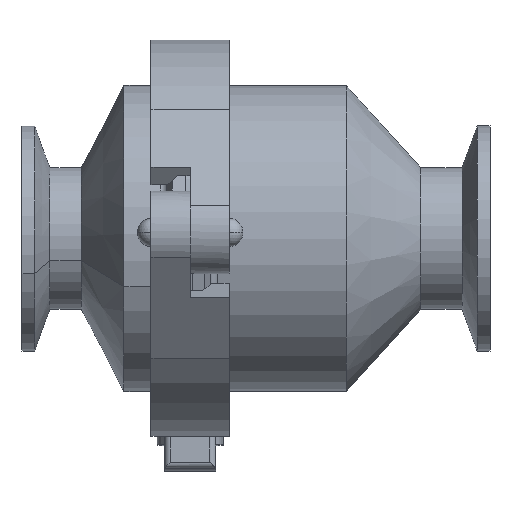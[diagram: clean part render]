
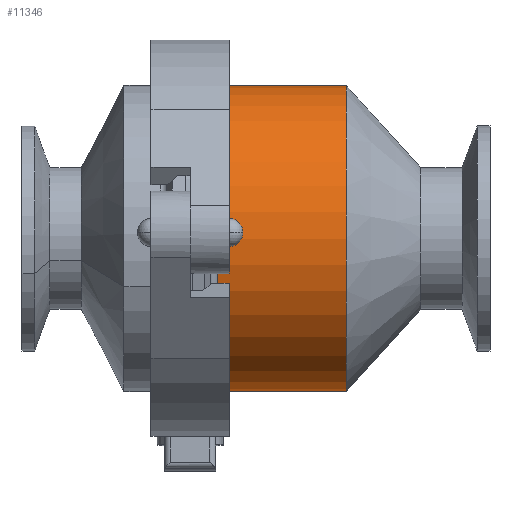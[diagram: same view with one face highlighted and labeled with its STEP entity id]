
A CAD part, left-side view. The second image highlights one B-rep face of the part: STEP entity #11346.
In plain terms, the highlighted cylindrical face has radius 34.29 mm (diameter 68.58 mm), a partial arc.
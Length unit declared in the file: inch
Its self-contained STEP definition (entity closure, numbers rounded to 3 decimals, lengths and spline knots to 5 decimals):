
#519 = FACE_OUTER_BOUND ( 'NONE', #12189, .T. ) ;
#760 = VERTEX_POINT ( 'NONE', #4383 ) ;
#1031 = LINE ( 'NONE', #3205, #8272 ) ;
#1625 = DIRECTION ( 'NONE',  ( 0., -1., 0. ) ) ;
#1965 = CARTESIAN_POINT ( 'NONE',  ( 1.07219, 2.19127, 1.35115 ) ) ;
#2514 = VERTEX_POINT ( 'NONE', #5116 ) ;
#2563 = VECTOR ( 'NONE', #9731, 39.37008 ) ;
#3205 = CARTESIAN_POINT ( 'NONE',  ( 1.07219, 2.42849, 4.05115 ) ) ;
#4383 = CARTESIAN_POINT ( 'NONE',  ( 1.07219, 1.05349, 1.35115 ) ) ;
#4428 = EDGE_CURVE ( 'NONE', #10706, #2514, #1031, .T. ) ;
#4629 = EDGE_CURVE ( 'NONE', #2514, #760, #9333, .T. ) ;
#4815 = EDGE_CURVE ( 'NONE', #4896, #760, #7796, .T. ) ;
#4896 = VERTEX_POINT ( 'NONE', #1965 ) ;
#5116 = CARTESIAN_POINT ( 'NONE',  ( 1.07219, 1.05349, 4.05115 ) ) ;
#5344 = CIRCLE ( 'NONE', #10263, 1.35 ) ;
#5458 = CYLINDRICAL_SURFACE ( 'NONE', #10715, 1.35 ) ;
#5730 = ORIENTED_EDGE ( 'NONE', *, *, #6622, .T. ) ;
#5825 = DIRECTION ( 'NONE',  ( 0., -1., 0. ) ) ;
#6622 = EDGE_CURVE ( 'NONE', #10706, #4896, #5344, .T. ) ;
#6788 = CARTESIAN_POINT ( 'NONE',  ( 1.07219, 2.42849, 1.35115 ) ) ;
#7334 = CARTESIAN_POINT ( 'NONE',  ( 1.07219, 2.42849, 2.70115 ) ) ;
#7526 = CARTESIAN_POINT ( 'NONE',  ( 1.07219, 1.05349, 2.70115 ) ) ;
#7796 = LINE ( 'NONE', #6788, #2563 ) ;
#8232 = DIRECTION ( 'NONE',  ( 0., 0., -1. ) ) ;
#8272 = VECTOR ( 'NONE', #9082, 39.37008 ) ;
#8305 = DIRECTION ( 'NONE',  ( 0., -1., 0. ) ) ;
#8416 = CARTESIAN_POINT ( 'NONE',  ( 1.07219, 2.19127, 4.05115 ) ) ;
#8509 = DIRECTION ( 'NONE',  ( 0., 0., -1. ) ) ;
#8686 = AXIS2_PLACEMENT_3D ( 'NONE', #7526, #1625, #8509 ) ;
#9082 = DIRECTION ( 'NONE',  ( 0., -1., 0. ) ) ;
#9333 = CIRCLE ( 'NONE', #8686, 1.35 ) ;
#9731 = DIRECTION ( 'NONE',  ( 0., -1., 0. ) ) ;
#10018 = ORIENTED_EDGE ( 'NONE', *, *, #4629, .F. ) ;
#10263 = AXIS2_PLACEMENT_3D ( 'NONE', #11685, #5825, #12639 ) ;
#10706 = VERTEX_POINT ( 'NONE', #8416 ) ;
#10715 = AXIS2_PLACEMENT_3D ( 'NONE', #7334, #8305, #8232 ) ;
#11117 = ORIENTED_EDGE ( 'NONE', *, *, #4428, .F. ) ;
#11346 = ADVANCED_FACE ( 'NONE', ( #519 ), #5458, .T. ) ;
#11685 = CARTESIAN_POINT ( 'NONE',  ( 1.07219, 2.19127, 2.70115 ) ) ;
#12018 = ORIENTED_EDGE ( 'NONE', *, *, #4815, .T. ) ;
#12189 = EDGE_LOOP ( 'NONE', ( #11117, #5730, #12018, #10018 ) ) ;
#12639 = DIRECTION ( 'NONE',  ( 0., 0., -1. ) ) ;
